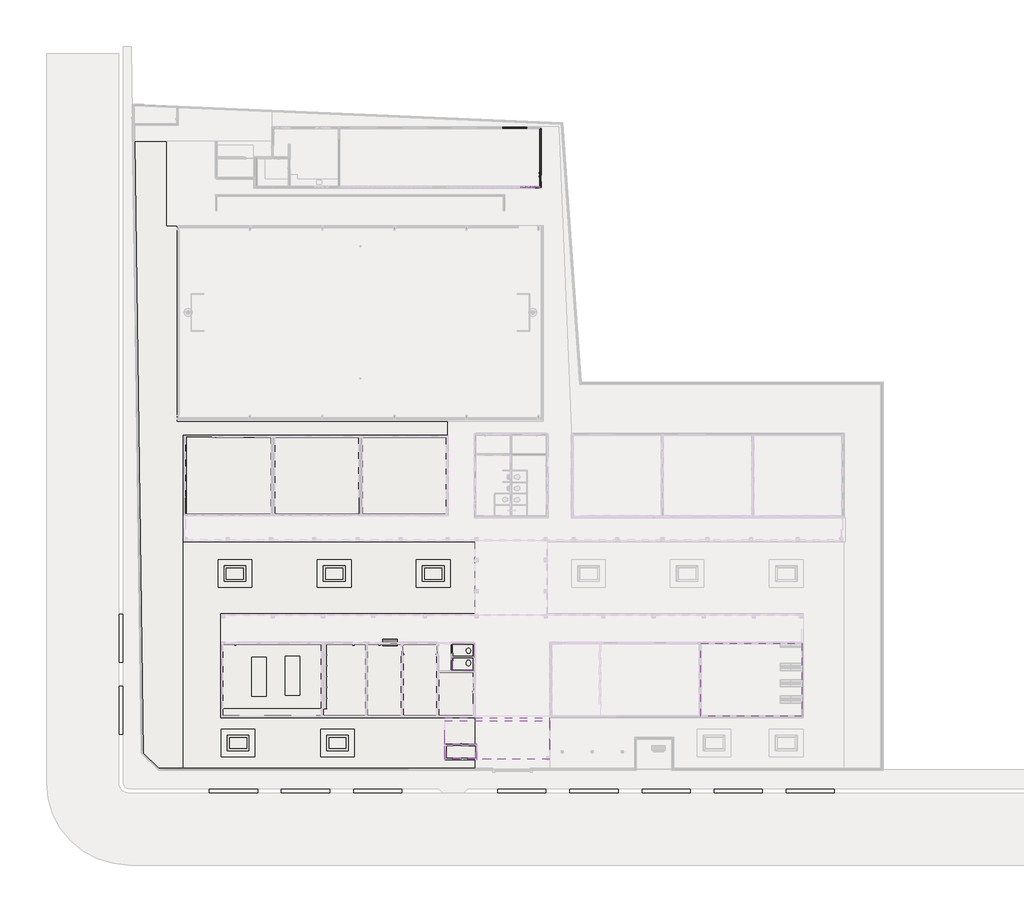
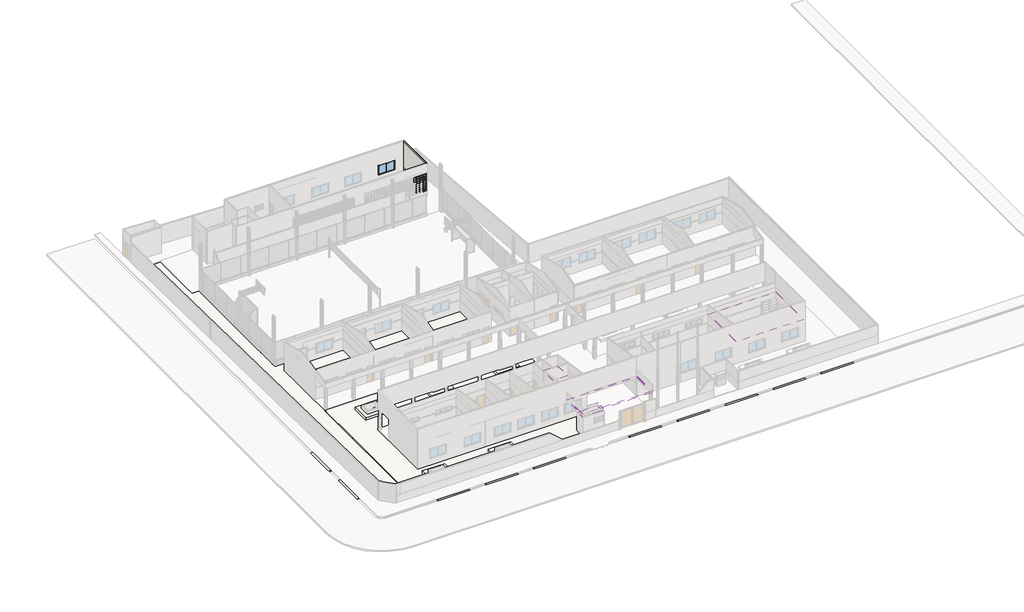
# One storey, part 27 of 28: 55 members, 16 slabs, 4 coverings, 4 doors, 4 walls, 1 roof, 1 window.
"""IFC4 building model written with IfcOpenShell, lengths in millimetres."""

from ifc_helpers import new_model, si_unit, frame, origin, place, context, project, spatial, polyline, outline, extrude, faceted_brep, transform, mapped, element, save
from components import door_95b59213, pf15_l82cm_686caa18, montante_retangular_02d07947, montante_retangular_70ba8f4d, montante_retangular_b3938234, montante_retangular_d2e0df8b, montante_retangular_ace9eee9, montante_retangular_c959cb71, montante_retangular_542d65e8, montante_retangular_afd96132, montante_retangular_e99c3e47, window_2x1_20x1x10_9e9748dd

model = new_model("IFC4")

# Units and contexts
model_context = context("Model", 3, world=origin())
ifc_project = project(units=[si_unit("LENGTHUNIT", "METRE", prefix="MILLI")], contexts=[model_context])

# Site, building, storey
site = spatial("IfcSite", under=ifc_project)
building = spatial("IfcBuilding", under=site)
storey = spatial("IfcBuildingStorey", under=building, Name="Térreo", Elevation=0.0)

# Coverings
placement = place(None, origin())
element("IfcCovering", 1, ObjectType="FDE_S1106_Gesso_Teto_comPintura_S1406_TintaLátexStandard_emSuperfíciedeGesso", at=placement, inside=storey, context=model_context, shape_type="SweptSolid", body=[
    extrude(outline(polyline([(-33923.4091269, 2078.5326612), (-33923.4091269, 1018.5326612), (-36383.4091269, 1018.5326612), (-36383.4091269, 2078.5326612), (-33923.4091269, 2078.5326612)])), frame((0.0, 0.0, 2500.0), z_axis=(0.0, 0.0, 1.0), x_axis=(1.0, 0.0, 0.0)), (0.0, 0.0, 1.0), 50.8),
])
element("IfcCovering", 2, ObjectType="FDE_S1106_Gesso_Teto_comPintura_S1406_TintaLátexStandard_emSuperfíciedeGesso", at=placement, inside=storey, context=model_context, shape_type="SweptSolid", body=[
    extrude(outline(polyline([(-27778.24702, 4399.9999994), (-27778.24702, 918.5326612), (-33833.4091269, 918.5326612), (-33833.4091269, 2168.5326612), (-36483.4091269, 2168.5326612), (-36483.4091269, 4399.9999994), (-27778.24702, 4399.9999994)])), frame((0.0, 0.0, 2790.0), z_axis=(0.0, 0.0, 1.0), x_axis=(1.0, 0.0, 0.0)), (0.0, 0.0, 1.0), 50.8),
])
element("IfcCovering", 3, ObjectType="FDE_S1106_Gesso_Teto_comPintura_S1406_TintaLátexStandard_emSuperfíciedeGesso", at=placement, inside=storey, context=model_context, shape_type="SweptSolid", body=[
    extrude(outline(polyline([(-6770.0, 10580.0), (-6770.0, 4520.0), (-15180.0, 4520.0), (-15180.0, 10580.0), (-6770.0, 10580.0)])), frame((0.0, 0.0, 2900.0), z_axis=(0.0, 0.0, 1.0), x_axis=(1.0, 0.0, 0.0)), (0.0, 0.0, 1.0), 50.8),
    extrude(outline(polyline([(-15270.0, 10580.0), (-15270.0, 4519.9999994), (-23530.0, 4519.9999994), (-23530.0, 10580.0), (-15270.0, 10580.0)])), frame((0.0, 0.0, 2900.0), z_axis=(0.0, 0.0, 1.0), x_axis=(1.0, 0.0, 0.0)), (0.0, 0.0, 1.0), 50.8),
    extrude(outline(polyline([(-27630.0, 4520.0), (-27630.0, 10580.0), (-23620.0, 10580.0), (-23620.0, 4520.0), (-27630.0, 4520.0)])), frame((0.0, 0.0, 2900.0), z_axis=(0.0, 0.0, 1.0), x_axis=(1.0, 0.0, 0.0)), (0.0, 0.0, 1.0), 50.8),
    extrude(outline(polyline([(-37023.4091269, 4520.0), (-37023.4091269, 8209.2493611), (-34073.4091269, 8209.2493611), (-34073.4091269, 4520.0), (-37023.4091269, 4520.0)])), frame((0.0, 0.0, 2900.0), z_axis=(0.0, 0.0, 1.0), x_axis=(1.0, 0.0, 0.0)), (0.0, 0.0, 1.0), 50.8),
    extrude(outline(polyline([(-39993.4091269, 10541.3195082), (-37113.4091269, 10541.3195082), (-37113.4091269, 4550.0000005), (-39993.4091269, 4550.0000005), (-39993.4091269, 10541.3195082)])), frame((0.0, 0.0, 2900.0), z_axis=(0.0, 0.0, 1.0), x_axis=(1.0, 0.0, 0.0)), (0.0, 0.0, 1.0), 50.8),
    extrude(outline(polyline([(-42963.4091269, 4550.0000005), (-42963.4091269, 10541.3195082), (-40083.4091269, 10541.3195082), (-40083.4091269, 4550.0000005), (-42963.4091269, 4550.0000005)])), frame((0.0, 0.0, 2900.0), z_axis=(0.0, 0.0, 1.0), x_axis=(1.0, 0.0, 0.0)), (0.0, 0.0, 1.0), 50.8),
    extrude(outline(polyline([(-46653.4091269, 10541.3195082), (-43053.4091269, 10541.3195082), (-43053.4091269, 4520.0000005), (-46653.4091269, 4520.0000005), (-46653.4091269, 10541.3195082)])), frame((0.0, 0.0, 2900.0), z_axis=(0.0, 0.0, 1.0), x_axis=(1.0, 0.0, 0.0)), (0.0, 0.0, 1.0), 50.8),
    extrude(outline(polyline([(-55003.4091269, 4520.0), (-55003.4091269, 10541.3195082), (-46743.4091269, 10541.3195082), (-46743.4091269, 4520.0), (-55003.4091269, 4520.0)])), frame((0.0, 0.0, 2900.0), z_axis=(0.0, 0.0, 1.0), x_axis=(1.0, 0.0, 0.0)), (0.0, 0.0, 1.0), 50.8),
])
element("IfcCovering", 4, ObjectType="FDE_S1106_Gesso_Teto_comPintura_S1406_TintaLátexStandard_emSuperfíciedeGesso", at=placement, inside=storey, context=model_context, shape_type="SweptSolid", body=[
    extrude(outline(polyline([(-34073.4091269, 8299.2493611), (-35873.4091269, 8299.2493611), (-35873.4091269, 10541.3195082), (-34073.4091269, 10541.3195082), (-34073.4091269, 8299.2493611)])), frame((0.0, 0.0, 2720.0), z_axis=(0.0, 0.0, 1.0), x_axis=(1.0, 0.0, 0.0)), (0.0, 0.0, 1.0), 50.8),
])

# Doors
door_shape = door_95b59213(model_context)
element("IfcDoor", 5, ObjectType="FDE_SO_Soleiras1 : SO14_SoleiraRampadaDesnívelAté2cm_L=14cm_Cimentado 2", at=placement, inside=storey, context=model_context, shape_type="MappedRepresentation", body=[
    mapped(door_shape, transform((-28520.0, 49106.0879102, 0.0), x_axis=(0.0, -1.0, 0.0), y_axis=(1.0, 0.0, 0.0), z_axis=(0.0, 0.0, 1.0))),
])
element("IfcDoor", 6, ObjectType="FDE_SO_Soleiras1 : SO14_SoleiraRampadaDesnívelAté2cm_L=14cm_Cimentado 2", at=placement, inside=storey, context=model_context, shape_type="MappedRepresentation", body=[
    mapped(door_shape, transform((-28520.0, 49406.0879102, 0.0), x_axis=(0.0, -1.0, 0.0), y_axis=(1.0, 0.0, 0.0), z_axis=(0.0, 0.0, 1.0))),
])
pf15_l82cm_shape = pf15_l82cm_686caa18(model_context)
element("IfcDoor", 7, ObjectType="FDE_PF15_PF16_PF17_PortaemChapadeFerro : PF15_L82cm", at=placement, inside=storey, context=model_context, shape_type="MappedRepresentation", body=[
    mapped(pf15_l82cm_shape, transform((-28525.0, 49106.0879102, 0.0), x_axis=(0.0, -1.0, 0.0), y_axis=(1.0, 0.0, 0.0), z_axis=(0.0, 0.0, 1.0))),
])
element("IfcDoor", 8, ObjectType="FDE_PF15_PF16_PF17_PortaemChapadeFerro : PF15_L82cm", at=placement, inside=storey, context=model_context, shape_type="MappedRepresentation", body=[
    mapped(pf15_l82cm_shape, transform((-28525.0, 49406.0879102, 0.0), x_axis=(0.0, -1.0, 0.0), y_axis=(1.0, 0.0, 0.0), z_axis=(0.0, 0.0, 1.0))),
])

# Members
montante_retangular_shape = montante_retangular_02d07947(model_context)
element("IfcMember", 9, ObjectType="Montante retangular : FDE_MontanteVenezianaIndustrial_Intermediário_Ref50 (Alumínio Anodizado)", at=placement, inside=storey, context=model_context, shape_type="MappedRepresentation", body=[
    mapped(montante_retangular_shape, transform((-29789.7368423, 48544.0879102, 925.0), x_axis=(1.0, 0.0, 0.0), y_axis=(0.0, -1.0, 0.0), z_axis=(0.0, 0.0, -1.0))),
])
element("IfcMember", 10, ObjectType="Montante retangular : FDE_MontanteVenezianaIndustrial_Intermediário_Ref50 (Alumínio Anodizado)", at=placement, inside=storey, context=model_context, shape_type="MappedRepresentation", body=[
    mapped(montante_retangular_shape, transform((-29383.157895, 48544.0879102, 925.0), x_axis=(1.0, 0.0, 0.0), y_axis=(0.0, -1.0, 0.0), z_axis=(0.0, 0.0, -1.0))),
])
element("IfcMember", 11, ObjectType="Montante retangular : FDE_MontanteVenezianaIndustrial_Intermediário_Ref50 (Alumínio Anodizado)", at=placement, inside=storey, context=model_context, shape_type="MappedRepresentation", body=[
    mapped(montante_retangular_shape, transform((-28976.5789476, 48544.0879102, 925.0), x_axis=(1.0, 0.0, 0.0), y_axis=(0.0, -1.0, 0.0), z_axis=(0.0, 0.0, -1.0))),
])
montante_retangular_2_shape = montante_retangular_70ba8f4d(model_context)
element("IfcMember", 12, ObjectType="Montante retangular : FDE_MontanteVenezianaIndustrial_Intermediário_Ref50 (Alumínio Anodizado)", at=placement, inside=storey, context=model_context, shape_type="MappedRepresentation", body=[
    mapped(montante_retangular_2_shape, transform((-29789.7368423, 48544.0879102, 1174.0), x_axis=(1.0, 0.0, 0.0), y_axis=(0.0, -1.0, 0.0), z_axis=(0.0, 0.0, -1.0))),
])
element("IfcMember", 13, ObjectType="Montante retangular : FDE_MontanteVenezianaIndustrial_Intermediário_Ref50 (Alumínio Anodizado)", at=placement, inside=storey, context=model_context, shape_type="MappedRepresentation", body=[
    mapped(montante_retangular_2_shape, transform((-29383.157895, 48544.0879102, 1174.0), x_axis=(1.0, 0.0, 0.0), y_axis=(0.0, -1.0, 0.0), z_axis=(0.0, 0.0, -1.0))),
])
element("IfcMember", 14, ObjectType="Montante retangular : FDE_MontanteVenezianaIndustrial_Intermediário_Ref50 (Alumínio Anodizado)", at=placement, inside=storey, context=model_context, shape_type="MappedRepresentation", body=[
    mapped(montante_retangular_2_shape, transform((-28976.5789476, 48544.0879102, 1174.0), x_axis=(1.0, 0.0, 0.0), y_axis=(0.0, -1.0, 0.0), z_axis=(0.0, 0.0, -1.0))),
])
element("IfcMember", 15, ObjectType="Montante retangular : FDE_MontanteVenezianaIndustrial_Intermediário_Ref50 (Alumínio Anodizado)", at=placement, inside=storey, context=model_context, shape_type="MappedRepresentation", body=[
    mapped(montante_retangular_2_shape, transform((-29789.7368423, 48544.0879102, 1448.0), x_axis=(1.0, 0.0, 0.0), y_axis=(0.0, -1.0, 0.0), z_axis=(0.0, 0.0, -1.0))),
])
element("IfcMember", 16, ObjectType="Montante retangular : FDE_MontanteVenezianaIndustrial_Intermediário_Ref50 (Alumínio Anodizado)", at=placement, inside=storey, context=model_context, shape_type="MappedRepresentation", body=[
    mapped(montante_retangular_2_shape, transform((-29383.157895, 48544.0879102, 1448.0), x_axis=(1.0, 0.0, 0.0), y_axis=(0.0, -1.0, 0.0), z_axis=(0.0, 0.0, -1.0))),
])
element("IfcMember", 17, ObjectType="Montante retangular : FDE_MontanteVenezianaIndustrial_Intermediário_Ref50 (Alumínio Anodizado)", at=placement, inside=storey, context=model_context, shape_type="MappedRepresentation", body=[
    mapped(montante_retangular_2_shape, transform((-28976.5789476, 48544.0879102, 1448.0), x_axis=(1.0, 0.0, 0.0), y_axis=(0.0, -1.0, 0.0), z_axis=(0.0, 0.0, -1.0))),
])
element("IfcMember", 18, ObjectType="Montante retangular : FDE_MontanteVenezianaIndustrial_Intermediário_Ref50 (Alumínio Anodizado)", at=placement, inside=storey, context=model_context, shape_type="MappedRepresentation", body=[
    mapped(montante_retangular_2_shape, transform((-29789.7368423, 48544.0879102, 1722.0), x_axis=(1.0, 0.0, 0.0), y_axis=(0.0, -1.0, 0.0), z_axis=(0.0, 0.0, -1.0))),
])
element("IfcMember", 19, ObjectType="Montante retangular : FDE_MontanteVenezianaIndustrial_Intermediário_Ref50 (Alumínio Anodizado)", at=placement, inside=storey, context=model_context, shape_type="MappedRepresentation", body=[
    mapped(montante_retangular_2_shape, transform((-29383.157895, 48544.0879102, 1722.0), x_axis=(1.0, 0.0, 0.0), y_axis=(0.0, -1.0, 0.0), z_axis=(0.0, 0.0, -1.0))),
])
element("IfcMember", 20, ObjectType="Montante retangular : FDE_MontanteVenezianaIndustrial_Intermediário_Ref50 (Alumínio Anodizado)", at=placement, inside=storey, context=model_context, shape_type="MappedRepresentation", body=[
    mapped(montante_retangular_2_shape, transform((-28976.5789476, 48544.0879102, 1722.0), x_axis=(1.0, 0.0, 0.0), y_axis=(0.0, -1.0, 0.0), z_axis=(0.0, 0.0, -1.0))),
])
element("IfcMember", 21, ObjectType="Montante retangular : FDE_MontanteVenezianaIndustrial_Intermediário_Ref50 (Alumínio Anodizado)", at=placement, inside=storey, context=model_context, shape_type="MappedRepresentation", body=[
    mapped(montante_retangular_2_shape, transform((-29789.7368423, 48544.0879102, 1996.0), x_axis=(1.0, 0.0, 0.0), y_axis=(0.0, -1.0, 0.0), z_axis=(0.0, 0.0, -1.0))),
])
element("IfcMember", 22, ObjectType="Montante retangular : FDE_MontanteVenezianaIndustrial_Intermediário_Ref50 (Alumínio Anodizado)", at=placement, inside=storey, context=model_context, shape_type="MappedRepresentation", body=[
    mapped(montante_retangular_2_shape, transform((-29383.157895, 48544.0879102, 1996.0), x_axis=(1.0, 0.0, 0.0), y_axis=(0.0, -1.0, 0.0), z_axis=(0.0, 0.0, -1.0))),
])
element("IfcMember", 23, ObjectType="Montante retangular : FDE_MontanteVenezianaIndustrial_Intermediário_Ref50 (Alumínio Anodizado)", at=placement, inside=storey, context=model_context, shape_type="MappedRepresentation", body=[
    mapped(montante_retangular_2_shape, transform((-28976.5789476, 48544.0879102, 1996.0), x_axis=(1.0, 0.0, 0.0), y_axis=(0.0, -1.0, 0.0), z_axis=(0.0, 0.0, -1.0))),
])
element("IfcMember", 24, ObjectType="Montante retangular : FDE_MontanteVenezianaIndustrial_Intermediário_Ref50 (Alumínio Anodizado)", at=placement, inside=storey, context=model_context, shape_type="MappedRepresentation", body=[
    mapped(montante_retangular_2_shape, transform((-29789.7368423, 48544.0879102, 2270.0), x_axis=(1.0, 0.0, 0.0), y_axis=(0.0, -1.0, 0.0), z_axis=(0.0, 0.0, -1.0))),
])
element("IfcMember", 25, ObjectType="Montante retangular : FDE_MontanteVenezianaIndustrial_Intermediário_Ref50 (Alumínio Anodizado)", at=placement, inside=storey, context=model_context, shape_type="MappedRepresentation", body=[
    mapped(montante_retangular_2_shape, transform((-29383.157895, 48544.0879102, 2270.0), x_axis=(1.0, 0.0, 0.0), y_axis=(0.0, -1.0, 0.0), z_axis=(0.0, 0.0, -1.0))),
])
element("IfcMember", 26, ObjectType="Montante retangular : FDE_MontanteVenezianaIndustrial_Intermediário_Ref50 (Alumínio Anodizado)", at=placement, inside=storey, context=model_context, shape_type="MappedRepresentation", body=[
    mapped(montante_retangular_2_shape, transform((-28976.5789476, 48544.0879102, 2270.0), x_axis=(1.0, 0.0, 0.0), y_axis=(0.0, -1.0, 0.0), z_axis=(0.0, 0.0, -1.0))),
])
element("IfcMember", 27, ObjectType="Montante retangular : FDE_MontanteVenezianaIndustrial_Intermediário_Ref50 (Alumínio Anodizado)", at=placement, inside=storey, context=model_context, shape_type="MappedRepresentation", body=[
    mapped(montante_retangular_2_shape, transform((-29789.7368423, 48544.0879102, 2544.0), x_axis=(1.0, 0.0, 0.0), y_axis=(0.0, -1.0, 0.0), z_axis=(0.0, 0.0, -1.0))),
])
element("IfcMember", 28, ObjectType="Montante retangular : FDE_MontanteVenezianaIndustrial_Intermediário_Ref50 (Alumínio Anodizado)", at=placement, inside=storey, context=model_context, shape_type="MappedRepresentation", body=[
    mapped(montante_retangular_2_shape, transform((-29383.157895, 48544.0879102, 2544.0), x_axis=(1.0, 0.0, 0.0), y_axis=(0.0, -1.0, 0.0), z_axis=(0.0, 0.0, -1.0))),
])
element("IfcMember", 29, ObjectType="Montante retangular : FDE_MontanteVenezianaIndustrial_Intermediário_Ref50 (Alumínio Anodizado)", at=placement, inside=storey, context=model_context, shape_type="MappedRepresentation", body=[
    mapped(montante_retangular_2_shape, transform((-28976.5789476, 48544.0879102, 2544.0), x_axis=(1.0, 0.0, 0.0), y_axis=(0.0, -1.0, 0.0), z_axis=(0.0, 0.0, -1.0))),
])
element("IfcMember", 30, ObjectType="Montante retangular : FDE_MontanteVenezianaIndustrial_Intermediário_Ref50 (Alumínio Anodizado)", at=placement, inside=storey, context=model_context, shape_type="MappedRepresentation", body=[
    mapped(montante_retangular_2_shape, transform((-29789.7368423, 48544.0879102, 2818.0), x_axis=(1.0, 0.0, 0.0), y_axis=(0.0, -1.0, 0.0), z_axis=(0.0, 0.0, -1.0))),
])
element("IfcMember", 31, ObjectType="Montante retangular : FDE_MontanteVenezianaIndustrial_Intermediário_Ref50 (Alumínio Anodizado)", at=placement, inside=storey, context=model_context, shape_type="MappedRepresentation", body=[
    mapped(montante_retangular_2_shape, transform((-29383.157895, 48544.0879102, 2818.0), x_axis=(1.0, 0.0, 0.0), y_axis=(0.0, -1.0, 0.0), z_axis=(0.0, 0.0, -1.0))),
])
element("IfcMember", 32, ObjectType="Montante retangular : FDE_MontanteVenezianaIndustrial_Intermediário_Ref50 (Alumínio Anodizado)", at=placement, inside=storey, context=model_context, shape_type="MappedRepresentation", body=[
    mapped(montante_retangular_2_shape, transform((-28976.5789476, 48544.0879102, 2818.0), x_axis=(1.0, 0.0, 0.0), y_axis=(0.0, -1.0, 0.0), z_axis=(0.0, 0.0, -1.0))),
])
montante_retangular_3_shape = montante_retangular_b3938234(model_context)
element("IfcMember", 33, ObjectType="Montante retangular : FDE_MontanteVenezianaIndustrial_BordaOpção2_Ref50 (Alumínio Anodizado)", at=placement, inside=storey, context=model_context, shape_type="MappedRepresentation", body=[
    mapped(montante_retangular_3_shape, transform((-28570.0, 48544.0879102, 925.0), x_axis=(1.0, 0.0, 0.0), y_axis=(0.0, -1.0, 0.0), z_axis=(0.0, 0.0, -1.0))),
])
montante_retangular_4_shape = montante_retangular_d2e0df8b(model_context)
element("IfcMember", 34, ObjectType="Montante retangular : FDE_MontanteVenezianaIndustrial_BordaOpção2_Ref50 (Alumínio Anodizado)", at=placement, inside=storey, context=model_context, shape_type="MappedRepresentation", body=[
    mapped(montante_retangular_4_shape, transform((-28570.0, 48544.0879102, 1174.0), x_axis=(1.0, 0.0, 0.0), y_axis=(0.0, -1.0, 0.0), z_axis=(0.0, 0.0, -1.0))),
])
element("IfcMember", 35, ObjectType="Montante retangular : FDE_MontanteVenezianaIndustrial_BordaOpção2_Ref50 (Alumínio Anodizado)", at=placement, inside=storey, context=model_context, shape_type="MappedRepresentation", body=[
    mapped(montante_retangular_4_shape, transform((-28570.0, 48544.0879102, 1448.0), x_axis=(1.0, 0.0, 0.0), y_axis=(0.0, -1.0, 0.0), z_axis=(0.0, 0.0, -1.0))),
])
element("IfcMember", 36, ObjectType="Montante retangular : FDE_MontanteVenezianaIndustrial_BordaOpção2_Ref50 (Alumínio Anodizado)", at=placement, inside=storey, context=model_context, shape_type="MappedRepresentation", body=[
    mapped(montante_retangular_4_shape, transform((-28570.0, 48544.0879102, 1722.0), x_axis=(1.0, 0.0, 0.0), y_axis=(0.0, -1.0, 0.0), z_axis=(0.0, 0.0, -1.0))),
])
element("IfcMember", 37, ObjectType="Montante retangular : FDE_MontanteVenezianaIndustrial_BordaOpção2_Ref50 (Alumínio Anodizado)", at=placement, inside=storey, context=model_context, shape_type="MappedRepresentation", body=[
    mapped(montante_retangular_4_shape, transform((-28570.0, 48544.0879102, 1996.0), x_axis=(1.0, 0.0, 0.0), y_axis=(0.0, -1.0, 0.0), z_axis=(0.0, 0.0, -1.0))),
])
element("IfcMember", 38, ObjectType="Montante retangular : FDE_MontanteVenezianaIndustrial_BordaOpção2_Ref50 (Alumínio Anodizado)", at=placement, inside=storey, context=model_context, shape_type="MappedRepresentation", body=[
    mapped(montante_retangular_4_shape, transform((-28570.0, 48544.0879102, 2270.0), x_axis=(1.0, 0.0, 0.0), y_axis=(0.0, -1.0, 0.0), z_axis=(0.0, 0.0, -1.0))),
])
element("IfcMember", 39, ObjectType="Montante retangular : FDE_MontanteVenezianaIndustrial_BordaOpção2_Ref50 (Alumínio Anodizado)", at=placement, inside=storey, context=model_context, shape_type="MappedRepresentation", body=[
    mapped(montante_retangular_4_shape, transform((-28570.0, 48544.0879102, 2544.0), x_axis=(1.0, 0.0, 0.0), y_axis=(0.0, -1.0, 0.0), z_axis=(0.0, 0.0, -1.0))),
])
element("IfcMember", 40, ObjectType="Montante retangular : FDE_MontanteVenezianaIndustrial_BordaOpção2_Ref50 (Alumínio Anodizado)", at=placement, inside=storey, context=model_context, shape_type="MappedRepresentation", body=[
    mapped(montante_retangular_4_shape, transform((-28570.0, 48544.0879102, 2818.0), x_axis=(1.0, 0.0, 0.0), y_axis=(0.0, -1.0, 0.0), z_axis=(0.0, 0.0, -1.0))),
])
montante_retangular_5_shape = montante_retangular_ace9eee9(model_context)
element("IfcMember", 41, ObjectType="Montante retangular : FDE_MontanteVenezianaIndustrial_Intermediário_Ref50 (Alumínio Anodizado)", at=placement, inside=storey, context=model_context, shape_type="MappedRepresentation", body=[
    mapped(montante_retangular_5_shape, transform((-29789.7368423, 48544.0879102, 3092.0), x_axis=(1.0, 0.0, 0.0), y_axis=(0.0, -1.0, 0.0), z_axis=(0.0, 0.0, -1.0))),
])
element("IfcMember", 42, ObjectType="Montante retangular : FDE_MontanteVenezianaIndustrial_Intermediário_Ref50 (Alumínio Anodizado)", at=placement, inside=storey, context=model_context, shape_type="MappedRepresentation", body=[
    mapped(montante_retangular_5_shape, transform((-29383.157895, 48544.0879102, 3092.0), x_axis=(1.0, 0.0, 0.0), y_axis=(0.0, -1.0, 0.0), z_axis=(0.0, 0.0, -1.0))),
])
element("IfcMember", 43, ObjectType="Montante retangular : FDE_MontanteVenezianaIndustrial_Intermediário_Ref50 (Alumínio Anodizado)", at=placement, inside=storey, context=model_context, shape_type="MappedRepresentation", body=[
    mapped(montante_retangular_5_shape, transform((-28976.5789476, 48544.0879102, 3092.0), x_axis=(1.0, 0.0, 0.0), y_axis=(0.0, -1.0, 0.0), z_axis=(0.0, 0.0, -1.0))),
])
montante_retangular_6_shape = montante_retangular_c959cb71(model_context)
element("IfcMember", 44, ObjectType="Montante retangular : FDE_MontanteVenezianaIndustrial_BordaOpção2_Ref50 (Alumínio Anodizado)", at=placement, inside=storey, context=model_context, shape_type="MappedRepresentation", body=[
    mapped(montante_retangular_6_shape, transform((-28570.0, 48544.0879102, 3092.0), x_axis=(1.0, 0.0, 0.0), y_axis=(0.0, -1.0, 0.0), z_axis=(0.0, 0.0, -1.0))),
])
montante_retangular_7_shape = montante_retangular_542d65e8(model_context)
element("IfcMember", 45, ObjectType="Montante retangular : FDE_MontanteVenezianaIndustrial_BordaOpção2_Ref50 (Alumínio Anodizado)", at=placement, inside=storey, context=model_context, shape_type="MappedRepresentation", body=[
    mapped(montante_retangular_7_shape, transform((-28570.0, 48544.0879102, 3200.0), x_axis=(0.0, 0.0, 1.0), y_axis=(0.0, -1.0, 0.0), z_axis=(1.0, 0.0, 0.0))),
])
montante_retangular_8_shape = montante_retangular_afd96132(model_context)
element("IfcMember", 46, ObjectType="Montante retangular : FDE_MontanteVenezianaIndustrial_BordaOpção2_Ref50 (Alumínio Anodizado)", at=placement, inside=storey, context=model_context, shape_type="MappedRepresentation", body=[
    mapped(montante_retangular_8_shape, transform((-28976.5789476, 48544.0879102, 3200.0), x_axis=(0.0, 0.0, 1.0), y_axis=(0.0, -1.0, 0.0), z_axis=(1.0, 0.0, 0.0))),
])
element("IfcMember", 47, ObjectType="Montante retangular : FDE_MontanteVenezianaIndustrial_BordaOpção1_Ref50 (Alumínio Anodizado)", at=placement, inside=storey, context=model_context, shape_type="MappedRepresentation", body=[
    mapped(montante_retangular_7_shape, transform((-28976.5789476, 48544.0879102, 900.0), x_axis=(0.0, 0.0, -1.0), y_axis=(0.0, -1.0, 0.0), z_axis=(-1.0, 0.0, 0.0))),
])
montante_retangular_9_shape = montante_retangular_e99c3e47(model_context)
element("IfcMember", 48, ObjectType="Montante retangular : FDE_AletaVenezianaIndustrial_Ref100 (Alumínio Anodizado)", at=placement, inside=storey, context=model_context, shape_type="MappedRepresentation", body=[
    mapped(montante_retangular_9_shape, transform((-28595.0, 48544.0879102, 1174.0), x_axis=(0.0, 0.0, 1.0), y_axis=(0.0, -1.0, 0.0), z_axis=(1.0, 0.0, 0.0))),
])
element("IfcMember", 49, ObjectType="Montante retangular : FDE_AletaVenezianaIndustrial_Ref100 (Alumínio Anodizado)", at=placement, inside=storey, context=model_context, shape_type="MappedRepresentation", body=[
    mapped(montante_retangular_9_shape, transform((-28595.0, 48544.0879102, 1448.0), x_axis=(0.0, 0.0, 1.0), y_axis=(0.0, -1.0, 0.0), z_axis=(1.0, 0.0, 0.0))),
])
element("IfcMember", 50, ObjectType="Montante retangular : FDE_AletaVenezianaIndustrial_Ref100 (Alumínio Anodizado)", at=placement, inside=storey, context=model_context, shape_type="MappedRepresentation", body=[
    mapped(montante_retangular_9_shape, transform((-28595.0, 48544.0879102, 1722.0), x_axis=(0.0, 0.0, 1.0), y_axis=(0.0, -1.0, 0.0), z_axis=(1.0, 0.0, 0.0))),
])
element("IfcMember", 51, ObjectType="Montante retangular : FDE_AletaVenezianaIndustrial_Ref100 (Alumínio Anodizado)", at=placement, inside=storey, context=model_context, shape_type="MappedRepresentation", body=[
    mapped(montante_retangular_9_shape, transform((-28595.0, 48544.0879102, 1996.0), x_axis=(0.0, 0.0, 1.0), y_axis=(0.0, -1.0, 0.0), z_axis=(1.0, 0.0, 0.0))),
])
element("IfcMember", 52, ObjectType="Montante retangular : FDE_AletaVenezianaIndustrial_Ref100 (Alumínio Anodizado)", at=placement, inside=storey, context=model_context, shape_type="MappedRepresentation", body=[
    mapped(montante_retangular_9_shape, transform((-28595.0, 48544.0879102, 2270.0), x_axis=(0.0, 0.0, 1.0), y_axis=(0.0, -1.0, 0.0), z_axis=(1.0, 0.0, 0.0))),
])
element("IfcMember", 53, ObjectType="Montante retangular : FDE_AletaVenezianaIndustrial_Ref100 (Alumínio Anodizado)", at=placement, inside=storey, context=model_context, shape_type="MappedRepresentation", body=[
    mapped(montante_retangular_9_shape, transform((-29408.157895, 48544.0879102, 2544.0), x_axis=(0.0, 0.0, 1.0), y_axis=(0.0, -1.0, 0.0), z_axis=(1.0, 0.0, 0.0))),
])
element("IfcMember", 54, ObjectType="Montante retangular : FDE_AletaVenezianaIndustrial_Ref100 (Alumínio Anodizado)", at=placement, inside=storey, context=model_context, shape_type="MappedRepresentation", body=[
    mapped(montante_retangular_9_shape, transform((-29001.5789476, 48544.0879102, 2544.0), x_axis=(0.0, 0.0, 1.0), y_axis=(0.0, -1.0, 0.0), z_axis=(1.0, 0.0, 0.0))),
])
element("IfcMember", 55, ObjectType="Montante retangular : FDE_AletaVenezianaIndustrial_Ref100 (Alumínio Anodizado)", at=placement, inside=storey, context=model_context, shape_type="MappedRepresentation", body=[
    mapped(montante_retangular_9_shape, transform((-28595.0, 48544.0879102, 2544.0), x_axis=(0.0, 0.0, 1.0), y_axis=(0.0, -1.0, 0.0), z_axis=(1.0, 0.0, 0.0))),
])
element("IfcMember", 56, ObjectType="Montante retangular : FDE_AletaVenezianaIndustrial_Ref100 (Alumínio Anodizado)", at=placement, inside=storey, context=model_context, shape_type="MappedRepresentation", body=[
    mapped(montante_retangular_9_shape, transform((-29814.7368423, 48544.0879102, 2818.0), x_axis=(0.0, 0.0, 1.0), y_axis=(0.0, -1.0, 0.0), z_axis=(1.0, 0.0, 0.0))),
])
element("IfcMember", 57, ObjectType="Montante retangular : FDE_AletaVenezianaIndustrial_Ref100 (Alumínio Anodizado)", at=placement, inside=storey, context=model_context, shape_type="MappedRepresentation", body=[
    mapped(montante_retangular_9_shape, transform((-29408.157895, 48544.0879102, 2818.0), x_axis=(0.0, 0.0, 1.0), y_axis=(0.0, -1.0, 0.0), z_axis=(1.0, 0.0, 0.0))),
])
element("IfcMember", 58, ObjectType="Montante retangular : FDE_AletaVenezianaIndustrial_Ref100 (Alumínio Anodizado)", at=placement, inside=storey, context=model_context, shape_type="MappedRepresentation", body=[
    mapped(montante_retangular_9_shape, transform((-29001.5789476, 48544.0879102, 2818.0), x_axis=(0.0, 0.0, 1.0), y_axis=(0.0, -1.0, 0.0), z_axis=(1.0, 0.0, 0.0))),
])
element("IfcMember", 59, ObjectType="Montante retangular : FDE_AletaVenezianaIndustrial_Ref100 (Alumínio Anodizado)", at=placement, inside=storey, context=model_context, shape_type="MappedRepresentation", body=[
    mapped(montante_retangular_9_shape, transform((-28595.0, 48544.0879102, 2818.0), x_axis=(0.0, 0.0, 1.0), y_axis=(0.0, -1.0, 0.0), z_axis=(1.0, 0.0, 0.0))),
])
element("IfcMember", 60, ObjectType="Montante retangular : FDE_AletaVenezianaIndustrial_Ref100 (Alumínio Anodizado)", at=placement, inside=storey, context=model_context, shape_type="MappedRepresentation", body=[
    mapped(montante_retangular_9_shape, transform((-29814.7368423, 48544.0879102, 3092.0), x_axis=(0.0, 0.0, 1.0), y_axis=(0.0, -1.0, 0.0), z_axis=(1.0, 0.0, 0.0))),
])
element("IfcMember", 61, ObjectType="Montante retangular : FDE_AletaVenezianaIndustrial_Ref100 (Alumínio Anodizado)", at=placement, inside=storey, context=model_context, shape_type="MappedRepresentation", body=[
    mapped(montante_retangular_9_shape, transform((-29408.157895, 48544.0879102, 3092.0), x_axis=(0.0, 0.0, 1.0), y_axis=(0.0, -1.0, 0.0), z_axis=(1.0, 0.0, 0.0))),
])
element("IfcMember", 62, ObjectType="Montante retangular : FDE_AletaVenezianaIndustrial_Ref100 (Alumínio Anodizado)", at=placement, inside=storey, context=model_context, shape_type="MappedRepresentation", body=[
    mapped(montante_retangular_9_shape, transform((-29001.5789476, 48544.0879102, 3092.0), x_axis=(0.0, 0.0, 1.0), y_axis=(0.0, -1.0, 0.0), z_axis=(1.0, 0.0, 0.0))),
])
element("IfcMember", 63, ObjectType="Montante retangular : FDE_AletaVenezianaIndustrial_Ref100 (Alumínio Anodizado)", at=placement, inside=storey, context=model_context, shape_type="MappedRepresentation", body=[
    mapped(montante_retangular_9_shape, transform((-28595.0, 48544.0879102, 3092.0), x_axis=(0.0, 0.0, 1.0), y_axis=(0.0, -1.0, 0.0), z_axis=(1.0, 0.0, 0.0))),
])

# Roof
element("IfcRoof", 64, ObjectType="Telha Metálica", at=placement, inside=storey, context=model_context, shape_type="SweptSolid", body=[
    extrude(outline(polyline([(918.5326612, 3278.6771321), (4150.0000017, 3020.1597448), (4150.0000017, 2970.0), (918.5326612, 3228.5173872), (918.5326612, 3278.6771321)])), frame((-36483.4091269, 0.0, 0.0), z_axis=(1.0, 0.0, 0.0), x_axis=(0.0, 1.0, 0.0)), (0.0, 0.0, 1.0), 8713.4091269),
])

# Slabs
element("IfcSlab", 65, ObjectType="FDE_PisoInterno_S1205_Granilite", at=placement, inside=storey, context=model_context, shape_type="SweptSolid", body=[
    extrude(outline(polyline([(-50950.0, 27750.0), (-50950.0, 21330.0), (-57950.0, 21330.0), (-57950.0, 27750.0), (-50950.0, 27750.0)])), frame((0.0, 0.0, 185.0), z_axis=(0.0, 0.0, 1.0), x_axis=(1.0, 0.0, 0.0)), (0.0, 0.0, 1.0), 35.0),
    extrude(outline(polyline([(-43650.0, 21330.0), (-50650.0, 21330.0), (-50650.0, 27750.0), (-43650.0, 27750.0), (-43650.0, 21330.0)])), frame((0.0, 0.0, 185.0), z_axis=(0.0, 0.0, 1.0), x_axis=(1.0, 0.0, 0.0)), (0.0, 0.0, 1.0), 35.0),
    extrude(outline(polyline([(-36350.0, 27750.0), (-36350.0, 21330.0), (-43350.0, 21330.0), (-43350.0, 27750.0), (-36350.0, 27750.0)])), frame((0.0, 0.0, 185.0), z_axis=(0.0, 0.0, 1.0), x_axis=(1.0, 0.0, 0.0)), (0.0, 0.0, 1.0), 35.0),
])
element("IfcSlab", 66, ObjectType="FDE_PisoInterno_S1205_Granilite", at=placement, inside=storey, context=model_context, shape_type="SweptSolid", body=[
    extrude(outline(polyline([(-50920.0, 27779.9999994), (-50920.0, 21300.0), (-58130.0, 21300.0), (-58130.0, 27779.9999994), (-50920.0, 27779.9999994)])), frame((0.0, 0.0, 185.0), z_axis=(0.0, 0.0, 1.0), x_axis=(1.0, 0.0, 0.0)), (0.0, 0.0, 1.0), 35.0),
    extrude(outline(polyline([(-43620.0, 21300.0), (-50680.0, 21300.0), (-50680.0, 27780.0), (-43620.0, 27780.0), (-43620.0, 21300.0)])), frame((0.0, 0.0, 185.0), z_axis=(0.0, 0.0, 1.0), x_axis=(1.0, 0.0, 0.0)), (0.0, 0.0, 1.0), 35.0),
    extrude(outline(polyline([(-36320.0, 27780.0), (-36320.0, 21330.0), (-43380.0, 21330.0), (-43380.0, 27780.0), (-36320.0, 27780.0)])), frame((0.0, 0.0, 185.0), z_axis=(0.0, 0.0, 1.0), x_axis=(1.0, 0.0, 0.0)), (0.0, 0.0, 1.0), 35.0),
])
element("IfcSlab", 67, ObjectType="FDE_PisoInterno_S1205_Granilite", at=placement, inside=storey, context=model_context, shape_type="SweptSolid", body=[
    extrude(outline(polyline([(-55003.4091269, 10541.3195082), (-46743.4091269, 10541.3195082), (-46743.4091269, 4520.0000015), (-55003.4091269, 4520.0000015), (-55003.4091269, 10541.3195082)])), frame((0.0, 0.0, 185.0), z_axis=(0.0, 0.0, 1.0), x_axis=(1.0, 0.0, 0.0)), (0.0, 0.0, 1.0), 35.0),
    extrude(outline(polyline([(-46653.4091269, 10541.3195082), (-43053.4091269, 10541.3195082), (-43053.4091269, 4520.0000005), (-46653.4091269, 4520.0000005), (-46653.4091269, 10541.3195082)])), frame((0.0, 0.0, 185.0), z_axis=(0.0, 0.0, 1.0), x_axis=(1.0, 0.0, 0.0)), (0.0, 0.0, 1.0), 35.0),
    extrude(outline(polyline([(-40083.4091269, 10541.3195082), (-40083.4091269, 4520.0000005), (-42963.4091269, 4520.0000005), (-42963.4091269, 10541.3195082), (-40083.4091269, 10541.3195082)])), frame((0.0, 0.0, 185.0), z_axis=(0.0, 0.0, 1.0), x_axis=(1.0, 0.0, 0.0)), (0.0, 0.0, 1.0), 35.0),
    extrude(outline(polyline([(-39993.4091269, 10541.3195082), (-37113.4091269, 10541.3195082), (-37113.4091269, 4520.0000005), (-39993.4091269, 4520.0000005), (-39993.4091269, 10541.3195082)])), frame((0.0, 0.0, 185.0), z_axis=(0.0, 0.0, 1.0), x_axis=(1.0, 0.0, 0.0)), (0.0, 0.0, 1.0), 35.0),
    extrude(outline(polyline([(-34073.4091269, 8209.2493611), (-34073.4091269, 4520.0000005), (-37023.4091269, 4520.0000005), (-37023.4091269, 8209.2493611), (-34073.4091269, 8209.2493611)])), frame((0.0, 0.0, 185.0), z_axis=(0.0, 0.0, 1.0), x_axis=(1.0, 0.0, 0.0)), (0.0, 0.0, 1.0), 35.0),
])
element("IfcSlab", 68, ObjectType="FDE_PisoInterno_S1205_Granilite", at=placement, inside=storey, context=model_context, shape_type="SweptSolid", body=[
    extrude(outline(polyline([(-34073.4091269, 9484.6246806), (-35963.4091269, 9484.6246806), (-35963.4091269, 10541.3195082), (-34073.4091269, 10541.3195082), (-34073.4091269, 9484.6246806)])), frame((0.0, 0.0, 185.0), z_axis=(0.0, 0.0, 1.0), x_axis=(1.0, 0.0, 0.0)), (0.0, 0.0, 1.0), 35.0),
    extrude(outline(polyline([(-34073.4091269, 8299.2493611), (-35963.4091269, 8299.2493611), (-35963.4091269, 9394.6246806), (-34073.4091269, 9394.6246806), (-34073.4091269, 8299.2493611)])), frame((0.0, 0.0, 185.0), z_axis=(0.0, 0.0, 1.0), x_axis=(1.0, 0.0, 0.0)), (0.0, 0.0, 1.0), 35.0),
])
element("IfcSlab", 69, ObjectType="FDE_PisoExterno_S1226_PavimentaçãoIntertravada_Passeio", at=placement, inside=storey, context=model_context, shape_type="SweptSolid", body=[
    extrude(outline(polyline([(-33974.4091269, 19030.0), (-33974.4091269, 13050.0), (-55123.4091269, 13050.0), (-55123.4091269, 4400.0000017), (-33833.4091269, 4400.0000017), (-33833.4091269, 2198.5326612), (-36503.4091269, 2198.5326612), (-36503.4091269, 928.5326612), (-36503.4091269, 898.5326612), (-33833.4091269, 898.5326612), (-33833.4091269, 150.0), (-58250.0, 150.0), (-58250.0, 13050.0), (-58250.0, 19030.0), (-33974.4091269, 19030.0)]), holes=[polyline([(-53217.5140751, 16874.1451949), (-54703.5140751, 16874.1451949), (-54703.5140751, 15888.1451949), (-53217.5140751, 15888.1451949), (-53217.5140751, 16874.1451949)]), polyline([(-46432.4525547, 16874.1451949), (-46432.4525547, 15888.1451949), (-44946.4525547, 15888.1451949), (-44946.4525547, 16874.1451949), (-46432.4525547, 16874.1451949)]), polyline([(-36707.0, 16874.1451949), (-38193.0, 16874.1451949), (-38193.0, 15888.1451949), (-36707.0, 15888.1451949), (-36707.0, 16874.1451949)]), polyline([(-52950.4091269, 1794.7308554), (-52950.4091269, 2780.7308554), (-54436.4091269, 2780.7308554), (-54436.4091269, 1794.7308554), (-52950.4091269, 1794.7308554)]), polyline([(-44679.3476065, 1794.7308554), (-44679.3476065, 2780.7308554), (-46165.3476065, 2780.7308554), (-46165.3476065, 1794.7308554), (-44679.3476065, 1794.7308554)])]), frame((0.0, 0.0, -60.0), z_axis=(0.0, 0.0, 1.0), x_axis=(1.0, 0.0, 0.0)), (0.0, 0.0, 1.0), 160.0),
])
element("IfcSlab", 70, ObjectType="FDE_PisoInterno_S1205_Granilite", at=placement, inside=storey, context=model_context, shape_type="SweptSolid", body=[
    extrude(outline(polyline([(-36383.4091269, 2078.5326612), (-33923.4091269, 2078.5326612), (-33923.4091269, 1018.5326612), (-36383.4091269, 1018.5326612), (-36383.4091269, 2078.5326612)])), frame((0.0, 0.0, 185.0), z_axis=(0.0, 0.0, 1.0), x_axis=(1.0, 0.0, 0.0)), (0.0, 0.0, 1.0), 35.0),
])
element("IfcSlab", 71, ObjectType="Bancos de Concreto_Área Externa", at=placement, inside=storey, context=model_context, shape_type="SweptSolid", body=[
    extrude(outline(polyline([(-47089.4525547, 15231.1451949), (-47089.4525547, 17531.1451949), (-44289.4525547, 17531.1451949), (-44289.4525547, 15231.1451949), (-47089.4525547, 15231.1451949)]), holes=[polyline([(-44789.4525547, 17031.1451949), (-46589.4525547, 17031.1451949), (-46589.4525547, 15731.1451949), (-44789.4525547, 15731.1451949), (-44789.4525547, 17031.1451949)])]), frame((0.0, 0.0, 100.0), z_axis=(0.0, 0.0, 1.0), x_axis=(1.0, 0.0, 0.0)), (0.0, 0.0, 1.0), 350.0),
])
element("IfcSlab", 72, ObjectType="Bancos de Concreto_Área Externa", at=placement, inside=storey, context=model_context, shape_type="SweptSolid", body=[
    extrude(outline(polyline([(-55360.5140751, 15231.1451949), (-55360.5140751, 17531.1451949), (-52560.5140751, 17531.1451949), (-52560.5140751, 15231.1451949), (-55360.5140751, 15231.1451949)]), holes=[polyline([(-53060.5140751, 17031.1451949), (-54860.5140751, 17031.1451949), (-54860.5140751, 15731.1451949), (-53060.5140751, 15731.1451949), (-53060.5140751, 17031.1451949)])]), frame((0.0, 0.0, 100.0), z_axis=(0.0, 0.0, 1.0), x_axis=(1.0, 0.0, 0.0)), (0.0, 0.0, 1.0), 350.0),
])
element("IfcSlab", 73, ObjectType="Bancos de Concreto_Área Externa", at=placement, inside=storey, context=model_context, shape_type="SweptSolid", body=[
    extrude(outline(polyline([(-38850.0, 15231.1451949), (-38850.0, 17531.1451949), (-36050.0, 17531.1451949), (-36050.0, 15231.1451949), (-38850.0, 15231.1451949)]), holes=[polyline([(-36550.0, 17031.1451949), (-38350.0, 17031.1451949), (-38350.0, 15731.1451949), (-36550.0, 15731.1451949), (-36550.0, 17031.1451949)])]), frame((0.0, 0.0, 100.0), z_axis=(0.0, 0.0, 1.0), x_axis=(1.0, 0.0, 0.0)), (0.0, 0.0, 1.0), 350.0),
])
element("IfcSlab", 74, ObjectType="Bancos de Concreto_Área Externa", at=placement, inside=storey, context=model_context, shape_type="SweptSolid", body=[
    extrude(outline(polyline([(-46822.3476065, 1137.7308554), (-46822.3476065, 3437.7308554), (-44022.3476065, 3437.7308554), (-44022.3476065, 1137.7308554), (-46822.3476065, 1137.7308554)]), holes=[polyline([(-44522.3476065, 2937.7308554), (-46322.3476065, 2937.7308554), (-46322.3476065, 1637.7308554), (-44522.3476065, 1637.7308554), (-44522.3476065, 2937.7308554)])]), frame((0.0, 0.0, 100.0), z_axis=(0.0, 0.0, 1.0), x_axis=(1.0, 0.0, 0.0)), (0.0, 0.0, 1.0), 350.0),
])
element("IfcSlab", 75, ObjectType="Bancos de Concreto_Área Externa", at=placement, inside=storey, context=model_context, shape_type="SweptSolid", body=[
    extrude(outline(polyline([(-55093.4091269, 1137.7308554), (-55093.4091269, 3437.7308554), (-52293.4091269, 3437.7308554), (-52293.4091269, 1137.7308554), (-55093.4091269, 1137.7308554)]), holes=[polyline([(-52793.4091269, 2937.7308554), (-54593.4091269, 2937.7308554), (-54593.4091269, 1637.7308554), (-52793.4091269, 1637.7308554), (-52793.4091269, 2937.7308554)])]), frame((0.0, 0.0, 100.0), z_axis=(0.0, 0.0, 1.0), x_axis=(1.0, 0.0, 0.0)), (0.0, 0.0, 1.0), 350.0),
])
element("IfcSlab", 76, ObjectType="Bancadas em Granito", at=placement, inside=storey, context=model_context, shape_type="SweptSolid", body=[
    extrude(outline(polyline([(-40463.4091284, 10364.2493611), (-41663.4091276, 10364.2493611), (-41663.4091276, 10914.2493611), (-40463.4091284, 10914.2493611), (-40463.4091284, 10364.2493611)])), frame((0.0, 0.0, 1190.0), z_axis=(0.0, 0.0, 1.0), x_axis=(1.0, 0.0, 0.0)), (0.0, 0.0, 1.0), 30.0),
])
element("IfcSlab", 77, ObjectType="Bancadas em Granito", at=placement, inside=storey, context=model_context, shape_type="SweptSolid", body=[
    extrude(outline(polyline([(-49751.0091428, 9499.3893673), (-48550.4066374, 9499.3893673), (-48550.4066374, 6249.3893713), (-49751.0091428, 6249.3893713), (-49751.0091428, 9499.3893673)])), frame((0.0, 0.0, 1170.0), z_axis=(0.0, 0.0, 1.0), x_axis=(1.0, 0.0, 0.0)), (0.0, 0.0, 1.0), 30.0),
    extrude(outline(polyline([(-52550.0969696, 9423.375406), (-51350.0969703, 9423.375406), (-51350.0969703, 6197.7647733), (-52550.0969696, 6197.7647733), (-52550.0969696, 9423.375406)])), frame((0.0, 0.0, 1170.0), z_axis=(0.0, 0.0, 1.0), x_axis=(1.0, 0.0, 0.0)), (0.0, 0.0, 1.0), 30.0),
])
element("IfcSlab", 78, ObjectType="Bancadas em Granito", at=placement, inside=storey, context=model_context, shape_type="SweptSolid", body=[
    extrude(outline(polyline([(-54993.4091269, 4550.0), (-54993.4091269, 5150.0), (-46773.4091269, 5150.0), (-46773.4091269, 4550.0), (-54993.4091269, 4550.0)])), frame((0.0, 0.0, 1090.0), z_axis=(0.0, 0.0, 1.0), x_axis=(1.0, 0.0, 0.0)), (0.0, 0.0, 1.0), 30.0),
])
element("IfcSlab", 79, ObjectType="Piso Grama", at=placement, inside=storey, context=model_context, shape_type="SweptSolid", body=[
    extrude(outline(polyline([(-59645.4902086, 52350.0), (-59645.4902086, 46249.069635), (-58750.0, 46249.069635), (-58750.0, 29050.0), (-35900.0, 29050.0), (-35900.0, 27870.0), (-58250.0, 27870.0), (-58250.0, 150.0), (-60256.286281, 150.0), (-61584.1265099, 1477.8402289), (-62202.2077323, 45350.0), (-62300.8253654, 52350.0), (-59645.4902086, 52350.0)])), frame((0.0, 0.0, -70.0), z_axis=(0.0, 0.0, 1.0), x_axis=(1.0, 0.0, 0.0)), (0.0, 0.0, 1.0), 70.0),
    extrude(outline(polyline([(-53217.5140751, 15888.1451949), (-54703.5140751, 15888.1451949), (-54703.5140751, 16874.1451949), (-53217.5140751, 16874.1451949), (-53217.5140751, 15888.1451949)])), frame((0.0, 0.0, -70.0), z_axis=(0.0, 0.0, 1.0), x_axis=(1.0, 0.0, 0.0)), (0.0, 0.0, 1.0), 70.0),
    extrude(outline(polyline([(-44946.4525547, 15888.1451949), (-46432.4525547, 15888.1451949), (-46432.4525547, 16874.1451949), (-44946.4525547, 16874.1451949), (-44946.4525547, 15888.1451949)])), frame((0.0, 0.0, -70.0), z_axis=(0.0, 0.0, 1.0), x_axis=(1.0, 0.0, 0.0)), (0.0, 0.0, 1.0), 70.0),
    extrude(outline(polyline([(-36707.0, 15888.1451949), (-38193.0, 15888.1451949), (-38193.0, 16874.1451949), (-36707.0, 16874.1451949), (-36707.0, 15888.1451949)])), frame((0.0, 0.0, -70.0), z_axis=(0.0, 0.0, 1.0), x_axis=(1.0, 0.0, 0.0)), (0.0, 0.0, 1.0), 70.0),
    extrude(outline(polyline([(-52950.4091269, 1794.7308554), (-54436.4091269, 1794.7308554), (-54436.4091269, 2780.7308554), (-52950.4091269, 2780.7308554), (-52950.4091269, 1794.7308554)])), frame((0.0, 0.0, -70.0), z_axis=(0.0, 0.0, 1.0), x_axis=(1.0, 0.0, 0.0)), (0.0, 0.0, 1.0), 70.0),
    extrude(outline(polyline([(-44679.3476065, 1794.7308554), (-46165.3476065, 1794.7308554), (-46165.3476065, 2780.7308554), (-44679.3476065, 2780.7308554), (-44679.3476065, 1794.7308554)])), frame((0.0, 0.0, -70.0), z_axis=(0.0, 0.0, 1.0), x_axis=(1.0, 0.0, 0.0)), (0.0, 0.0, 1.0), 70.0),
])
element("IfcSlab", 80, ObjectType="Piso Grama", at=placement, inside=storey, context=model_context, shape_type="SweptSolid", body=[
    extrude(outline(polyline([(-52076.7045634, -1879.9999997), (-56076.7045634, -1879.9999997), (-56076.7045634, -1499.9999998), (-52076.7045634, -1499.9999998), (-52076.7045634, -1879.9999997)])), frame((0.0, 0.0, -70.0), z_axis=(0.0, 0.0, 1.0), x_axis=(1.0, 0.0, 0.0)), (0.0, 0.0, 1.0), 70.0),
    extrude(outline(polyline([(-46076.7045634, -1879.9999997), (-50082.1389637, -1879.9999997), (-50082.1389637, -1499.9999998), (-46076.7045634, -1499.9999998), (-46076.7045634, -1879.9999997)])), frame((0.0, 0.0, -70.0), z_axis=(0.0, 0.0, 1.0), x_axis=(1.0, 0.0, 0.0)), (0.0, 0.0, 1.0), 70.0),
    extrude(outline(polyline([(-40076.7045634, -1879.9999997), (-44076.7045634, -1879.9999997), (-44076.7045634, -1499.9999998), (-40076.7045634, -1499.9999998), (-40076.7045634, -1879.9999997)])), frame((0.0, 0.0, -70.0), z_axis=(0.0, 0.0, 1.0), x_axis=(1.0, 0.0, 0.0)), (0.0, 0.0, 1.0), 70.0),
    extrude(outline(polyline([(-28076.7045634, -1879.9999997), (-32076.7045634, -1879.9999997), (-32076.7045634, -1499.9999992), (-28076.7045634, -1499.9999992), (-28076.7045634, -1879.9999997)])), frame((0.0, 0.0, -70.0), z_axis=(0.0, 0.0, 1.0), x_axis=(1.0, 0.0, 0.0)), (0.0, 0.0, 1.0), 70.0),
    extrude(outline(polyline([(-22076.7045634, -1879.9999997), (-26076.7045634, -1879.9999997), (-26076.7045634, -1499.9999992), (-22076.7045634, -1499.9999992), (-22076.7045634, -1879.9999997)])), frame((0.0, 0.0, -70.0), z_axis=(0.0, 0.0, 1.0), x_axis=(1.0, 0.0, 0.0)), (0.0, 0.0, 1.0), 70.0),
    extrude(outline(polyline([(-16076.7045634, -1879.9999991), (-20076.7045634, -1879.9999991), (-20076.7045634, -1499.9999992), (-16076.7045634, -1499.9999992), (-16076.7045634, -1879.9999991)])), frame((0.0, 0.0, -70.0), z_axis=(0.0, 0.0, 1.0), x_axis=(1.0, 0.0, 0.0)), (0.0, 0.0, 1.0), 70.0),
    extrude(outline(polyline([(-10076.7045634, -1879.999999), (-14076.7045634, -1879.999999), (-14076.7045634, -1499.9999992), (-10076.7045634, -1499.9999992), (-10076.7045634, -1879.999999)])), frame((0.0, 0.0, -70.0), z_axis=(0.0, 0.0, 1.0), x_axis=(1.0, 0.0, 0.0)), (0.0, 0.0, 1.0), 70.0),
    extrude(outline(polyline([(-4076.7045634, -1879.9999989), (-8084.7847213, -1879.9999989), (-8084.7847213, -1499.9999992), (-4076.7045634, -1499.9999992), (-4076.7045634, -1879.9999989)])), frame((0.0, 0.0, -70.0), z_axis=(0.0, 0.0, 1.0), x_axis=(1.0, 0.0, 0.0)), (0.0, 0.0, 1.0), 70.0),
    extrude(outline(polyline([(-63631.3605251, 7000.0), (-63255.8617769, 7000.0), (-63255.8617769, 3000.0), (-63631.3605251, 3000.0), (-63631.3605251, 7000.0)])), frame((0.0, 0.0, -70.0), z_axis=(0.0, 0.0, 1.0), x_axis=(1.0, 0.0, 0.0)), (0.0, 0.0, 1.0), 70.0),
    extrude(outline(polyline([(-63255.8617769, 9005.3847526), (-63631.3605251, 9000.0637845), (-63631.3605251, 12999.9620823), (-63255.8617769, 12996.7989523), (-63255.8617769, 9005.3847526)])), frame((0.0, 0.0, -70.0), z_axis=(0.0, 0.0, 1.0), x_axis=(1.0, 0.0, 0.0)), (0.0, 0.0, 1.0), 70.0),
])

# Walls
element("IfcWall", 81, ObjectType="FDE_S712_AlvenariadeTijoloCerâmico/Baiano_Alvenaria_9cm - Existente", at=placement, inside=storey, context=model_context, shape_type="Brep", body=[
    faceted_brep([(-28570.0, 48499.0879102, 3500.0), (-28570.0, 48589.0879102, 3500.0), (-28570.0, 53449.0879102, 3500.0), (-28570.0, 53449.0879102, 0.0), (-28570.0, 49823.0879102, 0.0), (-28570.0, 49823.0879102, 2112.0), (-28570.0, 48989.0879102, 2112.0), (-28570.0, 48989.0879102, 0.0), (-28570.0, 48589.0879102, 0.0), (-28570.0, 48499.0879102, 0.0), (-28570.0, 48499.0879102, 900.0), (-28570.0, 48499.0879102, 3200.0), (-28480.0, 53449.0879102, 3500.0), (-28480.0, 48499.0879102, 3500.0), (-28480.0, 48499.0879102, 0.0), (-28480.0, 48989.0879102, 0.0), (-28480.0, 48989.0879102, 2112.0), (-28480.0, 49823.0879102, 2112.0), (-28480.0, 49823.0879102, 0.0), (-28480.0, 53449.0879102, 0.0)], [[[0, 1, 2, 3, 4, 5, 6, 7, 8, 9, 10, 11]], [[12, 13, 14, 15, 16, 17, 18, 19]], [[3, 19, 18, 4]], [[14, 9, 8, 7, 15]], [[2, 1, 0, 13, 12]], [[3, 2, 12, 19]], [[6, 16, 15, 7]], [[16, 6, 5, 17]], [[17, 5, 4, 18]], [[0, 11, 10, 9, 14, 13]]]),
])
element("IfcWall", 82, ObjectType="FDE_S712_AlvenariadeTijoloCerâmico/Baiano_Alvenaria_9cm - Existente", at=placement, inside=storey, context=model_context, shape_type="Brep", body=[
    faceted_brep([(-28570.0, 48589.0879102, 4469.7879016), (-28570.0, 53539.0879102, 4469.7879016), (-28570.0, 53539.0879102, 3500.0), (-28570.0, 53449.0879102, 3500.0), (-28570.0, 53449.0879102, 0.0), (-28570.0, 49523.0879102, 0.0), (-28570.0, 49523.0879102, 1100.0), (-28570.0, 49523.0879102, 2112.0), (-28570.0, 48689.0879102, 2112.0), (-28570.0, 48689.0879102, 1100.0), (-28570.0, 48689.0879102, 0.0), (-28570.0, 48589.0879102, 0.0), (-28480.0, 53539.0879102, 4469.7879016), (-28480.0, 48589.0879102, 4469.7879016), (-28480.0, 48589.0879102, 3500.0), (-28480.0, 48589.0879102, 0.0), (-28480.0, 48689.0879102, 0.0), (-28480.0, 48689.0879102, 2112.0), (-28480.0, 49523.0879102, 2112.0), (-28480.0, 49523.0879102, 0.0), (-28480.0, 53449.0879102, 0.0), (-28480.0, 53449.0879102, 3500.0), (-28480.0, 53539.0879102, 3500.0)], [[[0, 1, 2, 3, 4, 5, 6, 7, 8, 9, 10, 11]], [[12, 13, 14, 15, 16, 17, 18, 19, 20, 21, 22]], [[4, 20, 19, 5]], [[15, 11, 10, 16]], [[1, 0, 13, 12]], [[8, 17, 16, 10, 9]], [[17, 8, 7, 18]], [[18, 7, 6, 5, 19]], [[22, 21, 3, 2]], [[20, 4, 3, 21]], [[1, 12, 22, 2]], [[11, 15, 14, 13, 0]]]),
])
element("IfcWall", 83, ObjectType="Revestimento Cerâmico 10x10cm", at=placement, inside=storey, context=model_context, shape_type="Brep", body=[
    faceted_brep([(-28480.0, 48499.0879102, 4500.0), (-28480.0, 53539.0879102, 4500.0), (-28480.0, 53539.0879102, 4469.7879016), (-28480.0, 53539.0879102, 3500.0), (-28480.0, 53539.0879102, 0.0), (-28480.0, 53449.0879102, 0.0), (-28480.0, 49523.0879102, 0.0), (-28480.0, 49523.0879102, 2112.0), (-28480.0, 48689.0879102, 2112.0), (-28480.0, 48689.0879102, 0.0), (-28480.0, 48589.0879102, 0.0), (-28480.0, 48499.0879102, 0.0), (-28480.0, 48499.0879102, 3500.0), (-28480.0, 48499.0879102, 4470.1437432), (-28450.0, 53539.0879102, 4500.0), (-28450.0, 48499.0879102, 4500.0), (-28450.0, 48499.0879102, 0.0), (-28450.0, 48689.0879102, 0.0), (-28450.0, 48689.0879102, 2112.0), (-28450.0, 49523.0879102, 2112.0), (-28450.0, 49523.0879102, 0.0), (-28450.0, 53539.0879102, 0.0)], [[[0, 1, 2, 3, 4, 5, 6, 7, 8, 9, 10, 11, 12, 13]], [[14, 15, 16, 17, 18, 19, 20, 21]], [[4, 21, 20, 6, 5]], [[16, 11, 10, 9, 17]], [[1, 0, 15, 14]], [[18, 8, 7, 19]], [[19, 7, 6, 20]], [[4, 3, 2, 1, 14, 21]], [[8, 18, 17, 9]], [[11, 16, 15, 0, 13, 12]]]),
])
element("IfcWall", 84, ObjectType="Revestimento Cerâmico 10x10cm", at=placement, inside=storey, context=model_context, shape_type="Brep", body=[
    faceted_brep([(-28570.0, 53419.0879102, 4500.0), (-28570.0, 48619.0879102, 4500.0), (-28570.0, 48619.0879102, 1100.0), (-28570.0, 48689.0879102, 1100.0), (-28570.0, 48689.0879102, 2112.0), (-28570.0, 49523.0879102, 2112.0), (-28570.0, 49523.0879102, 1100.0), (-28570.0, 53419.0879102, 1100.0), (-28600.0, 48619.0879102, 4500.0), (-28600.0, 53419.0879102, 4500.0), (-28600.0, 53419.0879102, 1100.0), (-28600.0, 49523.0879102, 1100.0), (-28600.0, 49523.0879102, 2112.0), (-28600.0, 48689.0879102, 2112.0), (-28600.0, 48689.0879102, 1100.0), (-28600.0, 48619.0879102, 1100.0), (-28585.0, 48619.0879102, 1100.0)], [[[0, 1, 2, 3, 4, 5, 6, 7]], [[8, 9, 10, 11, 12, 13, 14, 15]], [[10, 7, 6, 11]], [[2, 16, 15, 14, 3]], [[1, 0, 9, 8]], [[2, 1, 8, 15, 16]], [[0, 7, 10, 9]], [[13, 4, 3, 14]], [[4, 13, 12, 5]], [[5, 12, 11, 6]]]),
])

# Window
window_2x1_20x1x10_shape = window_2x1_20x1x10_9e9748dd(model_context)
element("IfcWindow", 85, ObjectType="JANELA COM ESQUADRIA DE CORRER - 2 FOLHAS : 2x1.20x1x10", at=placement, inside=storey, context=model_context, shape_type="MappedRepresentation", body=[
    mapped(window_2x1_20x1x10_shape, transform((-30799.4035509, 53494.9637497, 100.0), x_axis=(1.0, 0.0, 0.0), y_axis=(0.0, 1.0, 0.0), z_axis=(0.0, 0.0, 1.0))),
])

save(model, "model.ifc")
